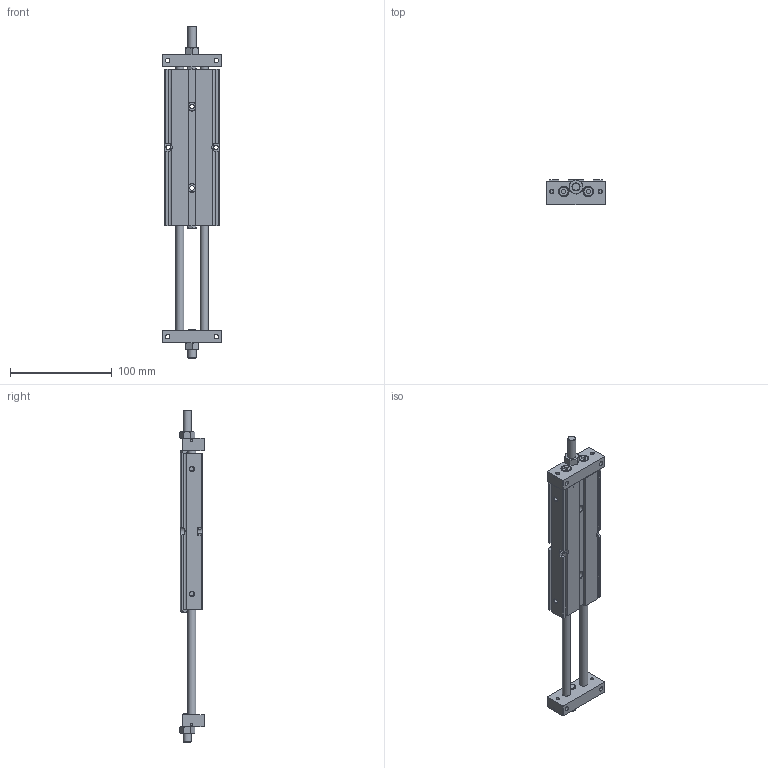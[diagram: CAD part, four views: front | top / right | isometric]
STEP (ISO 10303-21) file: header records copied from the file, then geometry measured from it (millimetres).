
FILE_DESCRIPTION((''),'2;1');
FILE_NAME('I:\3D電子目錄\氣缸\STU\STU\STU16\STU16x100.stp','2007-10-01T08:50:38',('Administrator'),(''),'Autodesk Inventor 11','Autodesk Inventor 11','');
FILE_SCHEMA(('AUTOMOTIVE_DESIGN { 1 0 10303 214 1 1 1 1 }'));
Length unit declared in the file: millimetre
Products named in the file (1): STU16
Bounding box: 58 x 24.51 x 327 mm (x, y, z)
Volume: 200247 mm3; surface area: 54397.4 mm2
Topology: 1 solids, 1 shells, 315 faces, 775 edges, 493 vertices
Faces by surface type: plane 161, cone 71, bspline 48, cylinder 35
Full cylindrical faces by diameter (mm): 2.459 x2, 8 x7, 8.5 x4, 9.5 x4, 18 x2, 19.2 x2
Entity records: 10033 total; most frequent: CARTESIAN_POINT 3278, ORIENTED_EDGE 1350, DIRECTION 1290, EDGE_CURVE 675, VERTEX_POINT 475, EDGE_LOOP 474, AXIS2_PLACEMENT_3D 473, VECTOR 344
